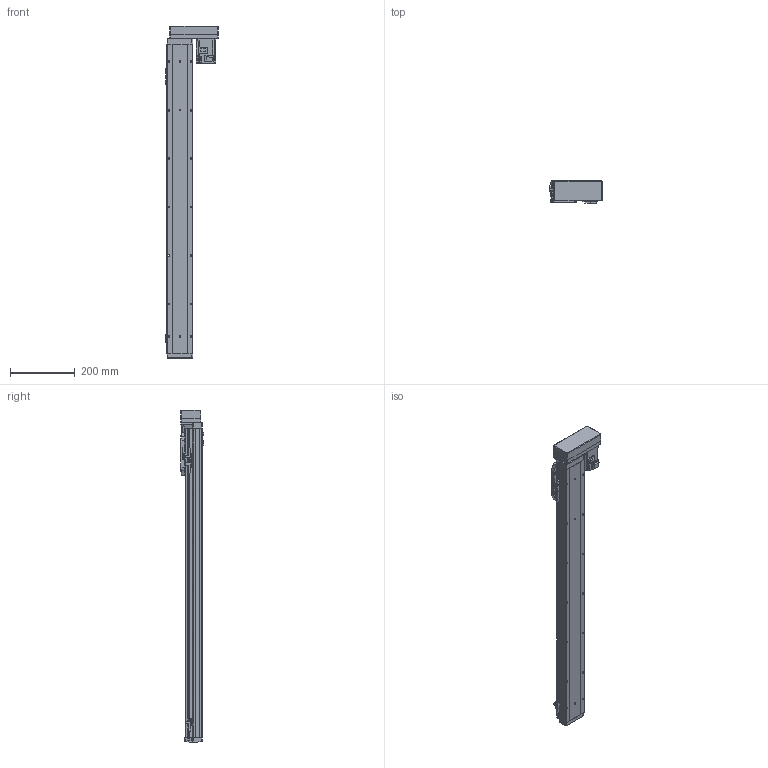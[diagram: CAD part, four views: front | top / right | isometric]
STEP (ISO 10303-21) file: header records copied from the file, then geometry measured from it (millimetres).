
FILE_DESCRIPTION (( 'STEP AP214' ), '1' );
FILE_NAME ('GSH8-800-BL-M20-1.step', '2025-01-07T06:06:38', ( '' ), ( '' ), 'SwSTEP 2.0', 'SolidWorks 2012', '' );
FILE_SCHEMA (( 'AUTOMOTIVE_DESIGN' ));
Length unit declared in the file: millimetre
Products named in the file (5): GSH8-BL-008; GSH8-BL-011-800-M20; GSH8-800-BL-M20-1; GSH8-GY-004; HG-KR23_200W_Motor
Assembly tree (4 placements, depth 2):
  GSH8-800-BL-M20-1
    GSH8-BL-011-800-M20
    GSH8-GY-004
    GSH8-BL-008
    HG-KR23_200W_Motor
Bounding box: 163 x 71.3 x 1028.2 mm (x, y, z)
Volume: 2381217.9 mm3; surface area: 611811.3 mm2
Topology: 4 solids, 8 shells, 1148 faces, 3017 edges, 1942 vertices
Faces by surface type: plane 648, cylinder 404, torus 42, cone 26, bspline 24, sphere 4
Entity records: 46127 total; most frequent: CARTESIAN_POINT 11360, DIRECTION 6125, ORIENTED_EDGE 6018, EDGE_CURVE 3009, AXIS2_PLACEMENT_3D 2063, VECTOR 1999, LINE 1999, VERTEX_POINT 1938
